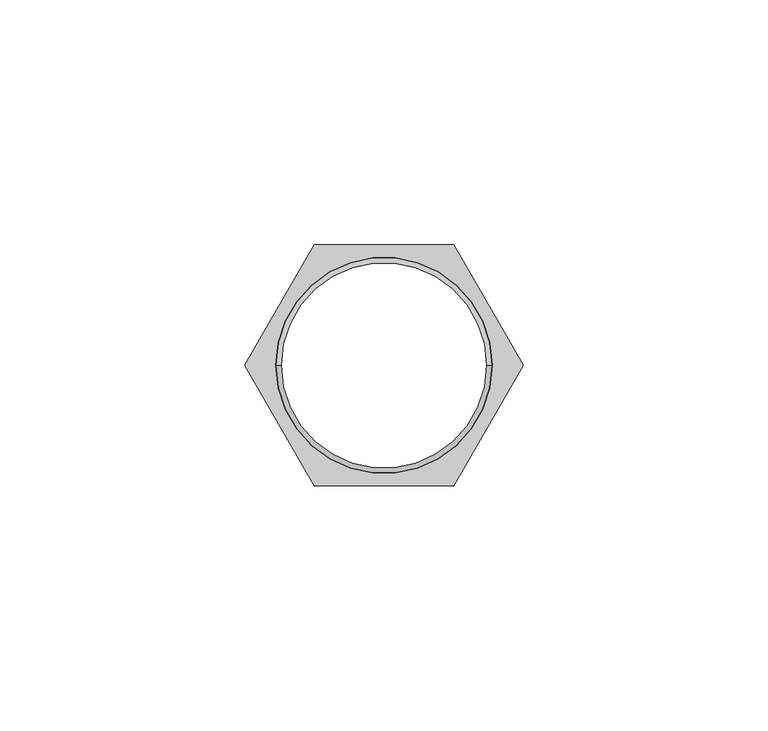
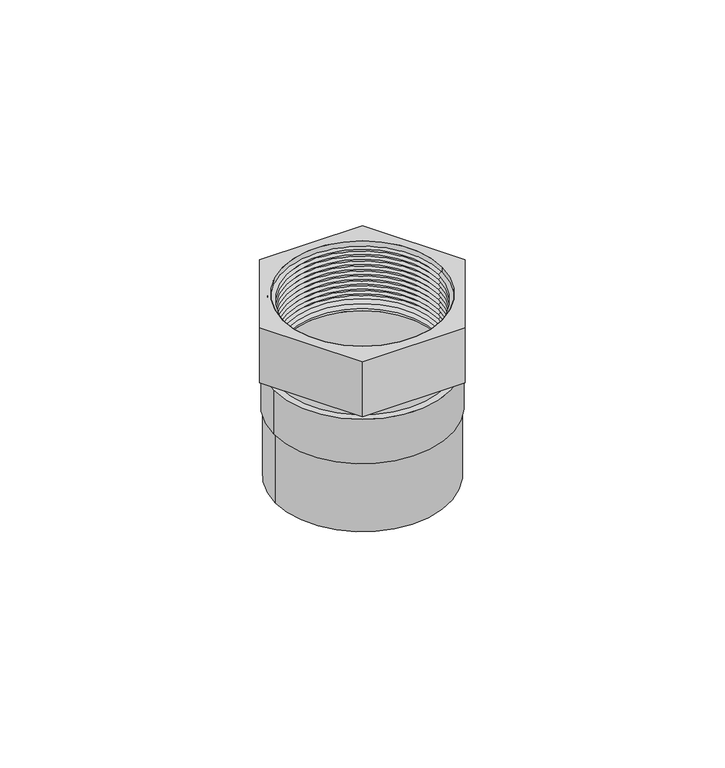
"""IFC4 building model written with IfcOpenShell, lengths in millimetres: valve geometry, Adaptador Hembra con Ins Metalico_Lubrizol_CPVC_FlowGuard_MX 38mm : Adaptador Hembra con Ins Metalico_Lubrizol_CPVC_FlowGuard_MX 38mm."""

from ifc_helpers import new_model, si_unit, point, frame, origin, origin_with_axes, origin_2d, place, context, project, spatial, polyline, circle_curve, trimmed, segment, composite_curve, outline, extrude, source, transform, mapped, element, save
from ifc_brep_helpers import plane_surface, cylinder_surface, revolved_surface, advanced_brep


def valve_f961c14e(model_context):
    return source(origin(), model_context, "Body", "SolidModel", [
        extrude(outline(composite_curve([segment(trimmed(circle_curve(origin_2d(), 24.4235969), [point((-24.4235969, 0.0))], [point((24.4235969, 0.0))], False, "CARTESIAN"), True, "CONTINUOUS"), segment(trimmed(circle_curve(origin_2d(), 24.4235969), [point((24.4235969, 0.0))], [point((-24.4235969, 0.0))], False, "CARTESIAN"), True, "CONTINUOUS")], self_intersect=False), holes=[composite_curve([segment(trimmed(circle_curve(origin_2d(), 21.0), [point((-21.0, 0.0))], [point((21.0, 0.0))], True, "CARTESIAN"), True, "CONTINUOUS"), segment(trimmed(circle_curve(origin_2d(), 21.0), [point((21.0, 0.0))], [point((-21.0, 0.0))], True, "CARTESIAN"), True, "CONTINUOUS")], self_intersect=False)]), frame((0.0, 0.0, 20.218148), z_axis=(0.0, 0.0, 1.0), x_axis=(1.0, 0.0, 0.0)), (0.0, 0.0, 1.0), 12.9525674),
        extrude(outline(polyline([(-14.2085802, -24.6099828), (-28.4171604, 0.0), (-14.2085802, 24.6099828), (14.2085802, 24.6099828), (28.4171604, 0.0), (14.2085802, -24.6099828), (-14.2085802, -24.6099828)]), holes=[composite_curve([segment(trimmed(circle_curve(origin_2d(), 22.0676492), [point((-22.0676492, 0.0))], [point((22.0676492, 0.0))], True, "CARTESIAN"), True, "CONTINUOUS"), segment(trimmed(circle_curve(origin_2d(), 22.0676492), [point((22.0676492, 0.0))], [point((-22.0676492, 0.0))], True, "CARTESIAN"), True, "CONTINUOUS")], self_intersect=False)]), frame((0.0, 0.0, 36.7290927), z_axis=(0.0, 0.0, 1.0), x_axis=(1.0, 0.0, 0.0)), (0.0, 0.0, 1.0), 16.125706),
        advanced_brep(
        [(22.9145169, 0.0, 52.8547988), (-22.9145169, 0.0, 52.8547988), (-22.0637127, 0.0, 52.8547988), (22.0637127, 0.0, 52.8547988), (22.9145169, 0.0, 33.1707154), (-22.9145169, 0.0, 33.1707154), (21.9449925, 0.0, 33.1707154), (-21.9449925, 0.0, 33.1707154), (21.0, 0.0, 33.8324062), (-21.0, 0.0, 33.8324062), (22.0007993, 0.0, 34.5331734), (-22.0007993, 0.0, 34.5331734), (21.0, 0.0, 35.2339406), (-21.0, 0.0, 35.2339406), (22.0676492, 0.0, 35.9815167), (-22.0676492, 0.0, 35.9815167), (21.0, 0.0, 36.7290927), (-21.0, 0.0, 36.7290927), (22.0007993, 0.0, 37.4298599), (-22.0007993, 0.0, 37.4298599), (21.0, 0.0, 38.1306271), (-21.0, 0.0, 38.1306271), (22.0007993, 0.0, 38.8313943), (-22.0007993, 0.0, 38.8313943), (21.0, 0.0, 39.5321616), (-21.0, 0.0, 39.5321616), (22.0342243, 0.0, 40.2563332), (-22.0342243, 0.0, 40.2563332), (21.0, 0.0, 40.9805048), (-21.0, 0.0, 40.9805048), (22.0342243, 0.0, 41.7046764), (-22.0342243, 0.0, 41.7046764), (21.0, 0.0, 42.428848), (-21.0, 0.0, 42.428848), (22.0342243, 0.0, 43.1530197), (-22.0342243, 0.0, 43.1530197), (21.0, 0.0, 43.8771913), (-21.0, 0.0, 43.8771913), (22.0342243, 0.0, 44.6013629), (-22.0342243, 0.0, 44.6013629), (21.0, 0.0, 45.3255345), (-21.0, 0.0, 45.3255345), (22.0342243, 0.0, 46.0497062), (-22.0342243, 0.0, 46.0497062), (21.0, 0.0, 46.7738778), (-21.0, 0.0, 46.7738778), (22.0342243, 0.0, 47.4980494), (-22.0342243, 0.0, 47.4980494), (21.0, 0.0, 48.222221), (-21.0, 0.0, 48.222221), (22.0342243, 0.0, 48.9463926), (-22.0342243, 0.0, 48.9463926), (21.0, 0.0, 49.6705643), (-21.0, 0.0, 49.6705643), (22.0342243, 0.0, 50.3947359), (-22.0342243, 0.0, 50.3947359), (21.0, 0.0, 51.1189075), (-21.0, 0.0, 51.1189075), (22.0637127, 0.0, 51.8637271), (-22.0637127, 0.0, 51.8637271)],
        [
            (0, 1, circle_curve(frame((0.0, 0.0, 52.8547988), z_axis=(0.0, 0.0, 1.0), x_axis=(-1.0, 0.0, 0.0)), 22.9145169)),
            (1, 2),
            (2, 3, circle_curve(frame((0.0, 0.0, 52.8547988), z_axis=(0.0, 0.0, -1.0), x_axis=(-1.0, 0.0, 0.0)), 22.0637127)),
            (3, 0),
            (1, 0, circle_curve(frame((0.0, 0.0, 52.8547988), z_axis=(0.0, 0.0, 1.0), x_axis=(-1.0, 0.0, 0.0)), 22.9145169)),
            (3, 2, circle_curve(frame((0.0, 0.0, 52.8547988), z_axis=(0.0, 0.0, -1.0), x_axis=(-1.0, 0.0, 0.0)), 22.0637127)),
            (4, 5, circle_curve(frame((0.0, 0.0, 33.1707154), z_axis=(0.0, 0.0, 1.0), x_axis=(-1.0, 0.0, 0.0)), 22.9145169)),
            (5, 1),
            (0, 4),
            (5, 4, circle_curve(frame((0.0, 0.0, 33.1707154), z_axis=(0.0, 0.0, 1.0), x_axis=(-1.0, 0.0, 0.0)), 22.9145169)),
            (6, 7, circle_curve(frame((0.0, 0.0, 33.1707154), z_axis=(0.0, 0.0, 1.0), x_axis=(-1.0, 0.0, 0.0)), 21.9449925)),
            (7, 5),
            (4, 6),
            (7, 6, circle_curve(frame((0.0, 0.0, 33.1707154), z_axis=(0.0, 0.0, 1.0), x_axis=(-1.0, 0.0, 0.0)), 21.9449925)),
            (8, 9, circle_curve(frame((0.0, 0.0, 33.8324062), z_axis=(0.0, 0.0, 1.0), x_axis=(-1.0, 0.0, 0.0)), 21.0)),
            (9, 7),
            (6, 8),
            (9, 8, circle_curve(frame((0.0, 0.0, 33.8324062), z_axis=(0.0, 0.0, 1.0), x_axis=(-1.0, 0.0, 0.0)), 21.0)),
            (10, 11, circle_curve(frame((0.0, 0.0, 34.5331734), z_axis=(0.0, 0.0, 1.0), x_axis=(-1.0, 0.0, 0.0)), 22.0007993)),
            (11, 9),
            (8, 10),
            (11, 10, circle_curve(frame((0.0, 0.0, 34.5331734), z_axis=(0.0, 0.0, 1.0), x_axis=(-1.0, 0.0, 0.0)), 22.0007993)),
            (12, 13, circle_curve(frame((0.0, 0.0, 35.2339406), z_axis=(0.0, 0.0, 1.0), x_axis=(-1.0, 0.0, 0.0)), 21.0)),
            (13, 11),
            (10, 12),
            (13, 12, circle_curve(frame((0.0, 0.0, 35.2339406), z_axis=(0.0, 0.0, 1.0), x_axis=(-1.0, 0.0, 0.0)), 21.0)),
            (14, 15, circle_curve(frame((0.0, 0.0, 35.9815167), z_axis=(0.0, 0.0, 1.0), x_axis=(-1.0, 0.0, 0.0)), 22.0676492)),
            (15, 13),
            (12, 14),
            (15, 14, circle_curve(frame((0.0, 0.0, 35.9815167), z_axis=(0.0, 0.0, 1.0), x_axis=(-1.0, 0.0, 0.0)), 22.0676492)),
            (16, 17, circle_curve(frame((0.0, 0.0, 36.7290927), z_axis=(0.0, 0.0, 1.0), x_axis=(-1.0, 0.0, 0.0)), 21.0)),
            (17, 15),
            (14, 16),
            (17, 16, circle_curve(frame((0.0, 0.0, 36.7290927), z_axis=(0.0, 0.0, 1.0), x_axis=(-1.0, 0.0, 0.0)), 21.0)),
            (18, 19, circle_curve(frame((0.0, 0.0, 37.4298599), z_axis=(0.0, 0.0, 1.0), x_axis=(-1.0, 0.0, 0.0)), 22.0007993)),
            (19, 17),
            (16, 18),
            (19, 18, circle_curve(frame((0.0, 0.0, 37.4298599), z_axis=(0.0, 0.0, 1.0), x_axis=(-1.0, 0.0, 0.0)), 22.0007993)),
            (20, 21, circle_curve(frame((0.0, 0.0, 38.1306271), z_axis=(0.0, 0.0, 1.0), x_axis=(-1.0, 0.0, 0.0)), 21.0)),
            (21, 19),
            (18, 20),
            (21, 20, circle_curve(frame((0.0, 0.0, 38.1306271), z_axis=(0.0, 0.0, 1.0), x_axis=(-1.0, 0.0, 0.0)), 21.0)),
            (22, 23, circle_curve(frame((0.0, 0.0, 38.8313943), z_axis=(0.0, 0.0, 1.0), x_axis=(-1.0, 0.0, 0.0)), 22.0007993)),
            (23, 21),
            (20, 22),
            (23, 22, circle_curve(frame((0.0, 0.0, 38.8313943), z_axis=(0.0, 0.0, 1.0), x_axis=(-1.0, 0.0, 0.0)), 22.0007993)),
            (24, 25, circle_curve(frame((0.0, 0.0, 39.5321616), z_axis=(0.0, 0.0, 1.0), x_axis=(-1.0, 0.0, 0.0)), 21.0)),
            (25, 23),
            (22, 24),
            (25, 24, circle_curve(frame((0.0, 0.0, 39.5321616), z_axis=(0.0, 0.0, 1.0), x_axis=(-1.0, 0.0, 0.0)), 21.0)),
            (26, 27, circle_curve(frame((0.0, 0.0, 40.2563332), z_axis=(0.0, 0.0, 1.0), x_axis=(-1.0, 0.0, 0.0)), 22.0342243)),
            (27, 25),
            (24, 26),
            (27, 26, circle_curve(frame((0.0, 0.0, 40.2563332), z_axis=(0.0, 0.0, 1.0), x_axis=(-1.0, 0.0, 0.0)), 22.0342243)),
            (28, 29, circle_curve(frame((0.0, 0.0, 40.9805048), z_axis=(0.0, 0.0, 1.0), x_axis=(-1.0, 0.0, 0.0)), 21.0)),
            (29, 27),
            (26, 28),
            (29, 28, circle_curve(frame((0.0, 0.0, 40.9805048), z_axis=(0.0, 0.0, 1.0), x_axis=(-1.0, 0.0, 0.0)), 21.0)),
            (30, 31, circle_curve(frame((0.0, 0.0, 41.7046764), z_axis=(0.0, 0.0, 1.0), x_axis=(-1.0, 0.0, 0.0)), 22.0342243)),
            (31, 29),
            (28, 30),
            (31, 30, circle_curve(frame((0.0, 0.0, 41.7046764), z_axis=(0.0, 0.0, 1.0), x_axis=(-1.0, 0.0, 0.0)), 22.0342243)),
            (32, 33, circle_curve(frame((0.0, 0.0, 42.428848), z_axis=(0.0, 0.0, 1.0), x_axis=(-1.0, 0.0, 0.0)), 21.0)),
            (33, 31),
            (30, 32),
            (33, 32, circle_curve(frame((0.0, 0.0, 42.428848), z_axis=(0.0, 0.0, 1.0), x_axis=(-1.0, 0.0, 0.0)), 21.0)),
            (34, 35, circle_curve(frame((0.0, 0.0, 43.1530197), z_axis=(0.0, 0.0, 1.0), x_axis=(-1.0, 0.0, 0.0)), 22.0342243)),
            (35, 33),
            (32, 34),
            (35, 34, circle_curve(frame((0.0, 0.0, 43.1530197), z_axis=(0.0, 0.0, 1.0), x_axis=(-1.0, 0.0, 0.0)), 22.0342243)),
            (36, 37, circle_curve(frame((0.0, 0.0, 43.8771913), z_axis=(0.0, 0.0, 1.0), x_axis=(-1.0, 0.0, 0.0)), 21.0)),
            (37, 35),
            (34, 36),
            (37, 36, circle_curve(frame((0.0, 0.0, 43.8771913), z_axis=(0.0, 0.0, 1.0), x_axis=(-1.0, 0.0, 0.0)), 21.0)),
            (38, 39, circle_curve(frame((0.0, 0.0, 44.6013629), z_axis=(0.0, 0.0, 1.0), x_axis=(-1.0, 0.0, 0.0)), 22.0342243)),
            (39, 37),
            (36, 38),
            (39, 38, circle_curve(frame((0.0, 0.0, 44.6013629), z_axis=(0.0, 0.0, 1.0), x_axis=(-1.0, 0.0, 0.0)), 22.0342243)),
            (40, 41, circle_curve(frame((0.0, 0.0, 45.3255345), z_axis=(0.0, 0.0, 1.0), x_axis=(-1.0, 0.0, 0.0)), 21.0)),
            (41, 39),
            (38, 40),
            (41, 40, circle_curve(frame((0.0, 0.0, 45.3255345), z_axis=(0.0, 0.0, 1.0), x_axis=(-1.0, 0.0, 0.0)), 21.0)),
            (42, 43, circle_curve(frame((0.0, 0.0, 46.0497062), z_axis=(0.0, 0.0, 1.0), x_axis=(-1.0, 0.0, 0.0)), 22.0342243)),
            (43, 41),
            (40, 42),
            (43, 42, circle_curve(frame((0.0, 0.0, 46.0497062), z_axis=(0.0, 0.0, 1.0), x_axis=(-1.0, 0.0, 0.0)), 22.0342243)),
            (44, 45, circle_curve(frame((0.0, 0.0, 46.7738778), z_axis=(0.0, 0.0, 1.0), x_axis=(-1.0, 0.0, 0.0)), 21.0)),
            (45, 43),
            (42, 44),
            (45, 44, circle_curve(frame((0.0, 0.0, 46.7738778), z_axis=(0.0, 0.0, 1.0), x_axis=(-1.0, 0.0, 0.0)), 21.0)),
            (46, 47, circle_curve(frame((0.0, 0.0, 47.4980494), z_axis=(0.0, 0.0, 1.0), x_axis=(-1.0, 0.0, 0.0)), 22.0342243)),
            (47, 45),
            (44, 46),
            (47, 46, circle_curve(frame((0.0, 0.0, 47.4980494), z_axis=(0.0, 0.0, 1.0), x_axis=(-1.0, 0.0, 0.0)), 22.0342243)),
            (48, 49, circle_curve(frame((0.0, 0.0, 48.222221), z_axis=(0.0, 0.0, 1.0), x_axis=(-1.0, 0.0, 0.0)), 21.0)),
            (49, 47),
            (46, 48),
            (49, 48, circle_curve(frame((0.0, 0.0, 48.222221), z_axis=(0.0, 0.0, 1.0), x_axis=(-1.0, 0.0, 0.0)), 21.0)),
            (50, 51, circle_curve(frame((0.0, 0.0, 48.9463926), z_axis=(0.0, 0.0, 1.0), x_axis=(-1.0, 0.0, 0.0)), 22.0342243)),
            (51, 49),
            (48, 50),
            (51, 50, circle_curve(frame((0.0, 0.0, 48.9463926), z_axis=(0.0, 0.0, 1.0), x_axis=(-1.0, 0.0, 0.0)), 22.0342243)),
            (52, 53, circle_curve(frame((0.0, 0.0, 49.6705643), z_axis=(0.0, 0.0, 1.0), x_axis=(-1.0, 0.0, 0.0)), 21.0)),
            (53, 51),
            (50, 52),
            (53, 52, circle_curve(frame((0.0, 0.0, 49.6705643), z_axis=(0.0, 0.0, 1.0), x_axis=(-1.0, 0.0, 0.0)), 21.0)),
            (54, 55, circle_curve(frame((0.0, 0.0, 50.3947359), z_axis=(0.0, 0.0, 1.0), x_axis=(-1.0, 0.0, 0.0)), 22.0342243)),
            (55, 53),
            (52, 54),
            (55, 54, circle_curve(frame((0.0, 0.0, 50.3947359), z_axis=(0.0, 0.0, 1.0), x_axis=(-1.0, 0.0, 0.0)), 22.0342243)),
            (56, 57, circle_curve(frame((0.0, 0.0, 51.1189075), z_axis=(0.0, 0.0, 1.0), x_axis=(-1.0, 0.0, 0.0)), 21.0)),
            (57, 55),
            (54, 56),
            (57, 56, circle_curve(frame((0.0, 0.0, 51.1189075), z_axis=(0.0, 0.0, 1.0), x_axis=(-1.0, 0.0, 0.0)), 21.0)),
            (58, 59, circle_curve(frame((0.0, 0.0, 51.8637271), z_axis=(0.0, 0.0, 1.0), x_axis=(-1.0, 0.0, 0.0)), 22.0637127)),
            (59, 57),
            (56, 58),
            (59, 58, circle_curve(frame((0.0, 0.0, 51.8637271), z_axis=(0.0, 0.0, 1.0), x_axis=(-1.0, 0.0, 0.0)), 22.0637127)),
            (2, 59),
            (58, 3),
        ],
        [
            plane_surface(frame((0.0, 0.0, 52.8547988), z_axis=(0.0, 0.0, 1.0), x_axis=(-1.0, 0.0, 0.0))),
            cylinder_surface(frame((0.0, 0.0, 47.613787), z_axis=(0.0, 0.0, -1.0), x_axis=(-1.0, 0.0, 0.0)), 22.9145169),
            plane_surface(frame((0.0, 0.0, 33.1707154), z_axis=(0.0, 0.0, -1.0), x_axis=(-1.0, 0.0, 0.0))),
            revolved_surface(polyline([(-21.9449925, 0.0, 33.1707154), (-21.0, 0.0, 33.8324062)]), (0.0, 0.0, 47.613787), (0.0, 0.0, -1.0)),
            revolved_surface(polyline([(-21.0, 0.0, 33.8324062), (-22.0007993, 0.0, 34.5331734)]), (0.0, 0.0, 47.613787), (0.0, 0.0, -1.0)),
            revolved_surface(polyline([(-22.0007993, 0.0, 34.5331734), (-21.0, 0.0, 35.2339406)]), (0.0, 0.0, 47.613787), (0.0, 0.0, -1.0)),
            revolved_surface(polyline([(-21.0, 0.0, 35.2339406), (-22.0676492, 0.0, 35.9815167)]), (0.0, 0.0, 47.613787), (0.0, 0.0, -1.0)),
            revolved_surface(polyline([(-22.0676492, 0.0, 35.9815167), (-21.0, 0.0, 36.7290927)]), (0.0, 0.0, 47.613787), (0.0, 0.0, -1.0)),
            revolved_surface(polyline([(-21.0, 0.0, 36.7290927), (-22.0007993, 0.0, 37.4298599)]), (0.0, 0.0, 47.613787), (0.0, 0.0, -1.0)),
            revolved_surface(polyline([(-22.0007993, 0.0, 37.4298599), (-21.0, 0.0, 38.1306271)]), (0.0, 0.0, 47.613787), (0.0, 0.0, -1.0)),
            revolved_surface(polyline([(-21.0, 0.0, 38.1306271), (-22.0007993, 0.0, 38.8313943)]), (0.0, 0.0, 47.613787), (0.0, 0.0, -1.0)),
            revolved_surface(polyline([(-22.0007993, 0.0, 38.8313943), (-21.0, 0.0, 39.5321616)]), (0.0, 0.0, 47.613787), (0.0, 0.0, -1.0)),
            revolved_surface(polyline([(-21.0, 0.0, 39.5321616), (-22.0342243, 0.0, 40.2563332)]), (0.0, 0.0, 47.613787), (0.0, 0.0, -1.0)),
            revolved_surface(polyline([(-22.0342243, 0.0, 40.2563332), (-21.0, 0.0, 40.9805048)]), (0.0, 0.0, 47.613787), (0.0, 0.0, -1.0)),
            revolved_surface(polyline([(-21.0, 0.0, 40.9805048), (-22.0342243, 0.0, 41.7046764)]), (0.0, 0.0, 47.613787), (0.0, 0.0, -1.0)),
            revolved_surface(polyline([(-22.0342243, 0.0, 41.7046764), (-21.0, 0.0, 42.428848)]), (0.0, 0.0, 47.613787), (0.0, 0.0, -1.0)),
            revolved_surface(polyline([(-21.0, 0.0, 42.428848), (-22.0342243, 0.0, 43.1530197)]), (0.0, 0.0, 47.613787), (0.0, 0.0, -1.0)),
            revolved_surface(polyline([(-22.0342243, 0.0, 43.1530197), (-21.0, 0.0, 43.8771913)]), (0.0, 0.0, 47.613787), (0.0, 0.0, -1.0)),
            revolved_surface(polyline([(-21.0, 0.0, 43.8771913), (-22.0342243, 0.0, 44.6013629)]), (0.0, 0.0, 47.613787), (0.0, 0.0, -1.0)),
            revolved_surface(polyline([(-22.0342243, 0.0, 44.6013629), (-21.0, 0.0, 45.3255345)]), (0.0, 0.0, 47.613787), (0.0, 0.0, -1.0)),
            revolved_surface(polyline([(-21.0, 0.0, 45.3255345), (-22.0342243, 0.0, 46.0497062)]), (0.0, 0.0, 47.613787), (0.0, 0.0, -1.0)),
            revolved_surface(polyline([(-22.0342243, 0.0, 46.0497062), (-21.0, 0.0, 46.7738778)]), (0.0, 0.0, 47.613787), (0.0, 0.0, -1.0)),
            revolved_surface(polyline([(-21.0, 0.0, 46.7738778), (-22.0342243, 0.0, 47.4980494)]), (0.0, 0.0, 47.613787), (0.0, 0.0, -1.0)),
            revolved_surface(polyline([(-22.0342243, 0.0, 47.4980494), (-21.0, 0.0, 48.222221)]), (0.0, 0.0, 47.613787), (0.0, 0.0, -1.0)),
            revolved_surface(polyline([(-21.0, 0.0, 48.222221), (-22.0342243, 0.0, 48.9463926)]), (0.0, 0.0, 47.613787), (0.0, 0.0, -1.0)),
            revolved_surface(polyline([(-22.0342243, 0.0, 48.9463926), (-21.0, 0.0, 49.6705643)]), (0.0, 0.0, 47.613787), (0.0, 0.0, -1.0)),
            revolved_surface(polyline([(-21.0, 0.0, 49.6705643), (-22.0342243, 0.0, 50.3947359)]), (0.0, 0.0, 47.613787), (0.0, 0.0, -1.0)),
            revolved_surface(polyline([(-22.0342243, 0.0, 50.3947359), (-21.0, 0.0, 51.1189075)]), (0.0, 0.0, 47.613787), (0.0, 0.0, -1.0)),
            revolved_surface(polyline([(-21.0, 0.0, 51.1189075), (-22.0637127, 0.0, 51.8637271)]), (0.0, 0.0, 47.613787), (0.0, 0.0, -1.0)),
            revolved_surface(polyline([(-22.0637127, 0.0, 51.8637271), (-22.0637127, 0.0, 52.8547988)]), (0.0, 0.0, 47.613787), (0.0, 0.0, -1.0)),
        ],
        [
            (0, [[1, 2, 3, 4]]),
            (0, [[5, -4, 6, -2]]),
            (1, [[7, 8, -1, 9]]),
            (1, [[10, -9, -5, -8]]),
            (2, [[11, 12, -7, 13]]),
            (2, [[14, -13, -10, -12]]),
            (3, [[15, 16, -11, 17]]),
            (3, [[18, -17, -14, -16]]),
            (4, [[19, 20, -15, 21]]),
            (4, [[22, -21, -18, -20]]),
            (5, [[23, 24, -19, 25]]),
            (5, [[26, -25, -22, -24]]),
            (6, [[27, 28, -23, 29]]),
            (6, [[30, -29, -26, -28]]),
            (7, [[31, 32, -27, 33]]),
            (7, [[34, -33, -30, -32]]),
            (8, [[35, 36, -31, 37]]),
            (8, [[38, -37, -34, -36]]),
            (9, [[39, 40, -35, 41]]),
            (9, [[42, -41, -38, -40]]),
            (10, [[43, 44, -39, 45]]),
            (10, [[46, -45, -42, -44]]),
            (11, [[47, 48, -43, 49]]),
            (11, [[50, -49, -46, -48]]),
            (12, [[51, 52, -47, 53]]),
            (12, [[54, -53, -50, -52]]),
            (13, [[55, 56, -51, 57]]),
            (13, [[58, -57, -54, -56]]),
            (14, [[59, 60, -55, 61]]),
            (14, [[62, -61, -58, -60]]),
            (15, [[63, 64, -59, 65]]),
            (15, [[66, -65, -62, -64]]),
            (16, [[67, 68, -63, 69]]),
            (16, [[70, -69, -66, -68]]),
            (17, [[71, 72, -67, 73]]),
            (17, [[74, -73, -70, -72]]),
            (18, [[75, 76, -71, 77]]),
            (18, [[78, -77, -74, -76]]),
            (19, [[79, 80, -75, 81]]),
            (19, [[82, -81, -78, -80]]),
            (20, [[83, 84, -79, 85]]),
            (20, [[86, -85, -82, -84]]),
            (21, [[87, 88, -83, 89]]),
            (21, [[90, -89, -86, -88]]),
            (22, [[91, 92, -87, 93]]),
            (22, [[94, -93, -90, -92]]),
            (23, [[95, 96, -91, 97]]),
            (23, [[98, -97, -94, -96]]),
            (24, [[99, 100, -95, 101]]),
            (24, [[102, -101, -98, -100]]),
            (25, [[103, 104, -99, 105]]),
            (25, [[106, -105, -102, -104]]),
            (26, [[107, 108, -103, 109]]),
            (26, [[110, -109, -106, -108]]),
            (27, [[111, 112, -107, 113]]),
            (27, [[114, -113, -110, -112]]),
            (28, [[115, 116, -111, 117]]),
            (28, [[118, -117, -114, -116]]),
            (29, [[-3, 119, -115, 120]]),
            (29, [[-6, -120, -118, -119]]),
        ],
    ),
        extrude(outline(composite_curve([segment(trimmed(circle_curve(origin_2d(), 24.0), [point((-24.0, 0.0))], [point((24.0, 0.0))], False, "CARTESIAN"), True, "CONTINUOUS"), segment(trimmed(circle_curve(origin_2d(), 24.0), [point((24.0, 0.0))], [point((-24.0, 0.0))], False, "CARTESIAN"), True, "CONTINUOUS")], self_intersect=False), holes=[composite_curve([segment(trimmed(circle_curve(origin_2d(), 21.0), [point((-21.0, 0.0))], [point((21.0, 0.0))], True, "CARTESIAN"), True, "CONTINUOUS"), segment(trimmed(circle_curve(origin_2d(), 21.0), [point((21.0, 0.0))], [point((-21.0, 0.0))], True, "CARTESIAN"), True, "CONTINUOUS")], self_intersect=False)]), origin_with_axes(), (0.0, 0.0, 1.0), 20.218148),
    ])


if __name__ == "__main__":
    model = new_model("IFC4")
    model_context = context("Model", 3, world=origin())
    ifc_project = project(units=[si_unit("LENGTHUNIT", "METRE", prefix="MILLI")], contexts=[model_context])
    site = spatial("IfcSite", under=ifc_project)
    building = spatial("IfcBuilding", under=site)
    placement = place(None, origin())
    valve_shape = valve_f961c14e(model_context)
    element("IfcValve", 1, ObjectType="Adaptador Hembra con Ins Metalico_Lubrizol_CPVC_FlowGuard_MX 38mm : Adaptador Hembra con Ins Metalico_Lubrizol_CPVC_FlowGuard_MX 38mm", at=placement, inside=building, context=model_context, shape_type="MappedRepresentation", body=[
        mapped(valve_shape, transform((0.0, 0.0, 0.0), x_axis=(1.0, 0.0, 0.0), y_axis=(0.0, 1.0, 0.0), z_axis=(0.0, 0.0, 1.0))),
    ])
    save(model, "model.ifc")
